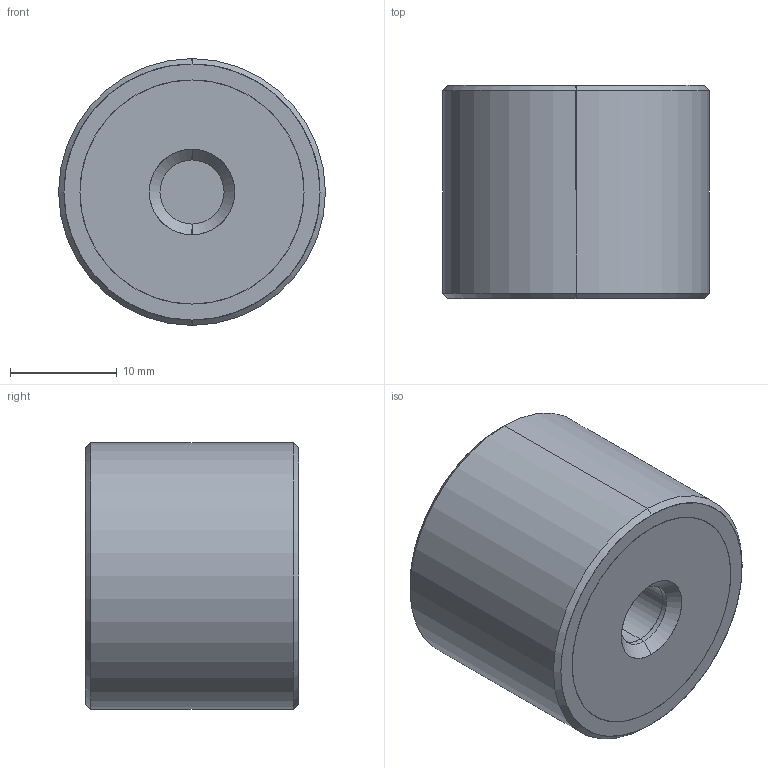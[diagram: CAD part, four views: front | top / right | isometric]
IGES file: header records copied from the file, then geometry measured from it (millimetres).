
Start section: SolidWorks IGES file using analytic representation for surfaces
Global section: file name: E:\WIXROYD 20180701\61080_v2\61080_v2_20180409_IGES\61080.W0251.igs; native system: SolidWorks 2017; preprocessor: SolidWorks 2017; author: liam_; date: 180716.214313; units: millimetre
Bounding box: 25 x 20 x 25 mm (x, y, z)
Surface area: 4380.8 mm2 (no closed solid volume)
Topology: 0 solids, 0 shells, 36 faces, 680 edges, 680 vertices
Faces by surface type: revolution 26, bspline 10
